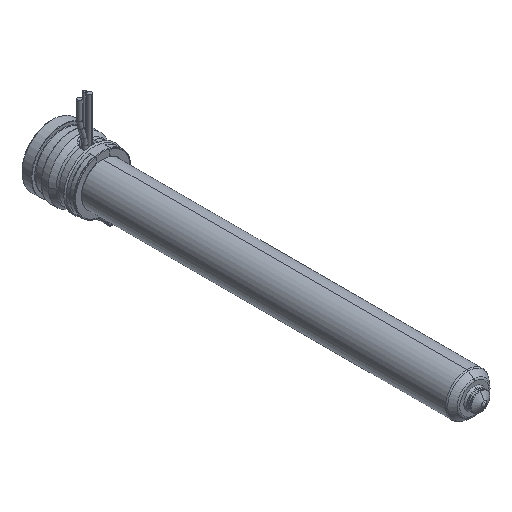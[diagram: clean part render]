
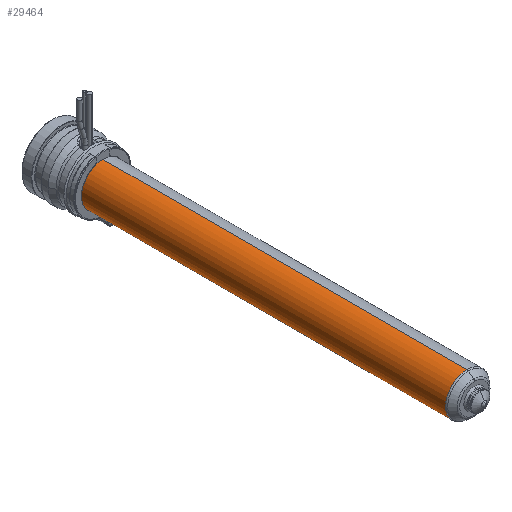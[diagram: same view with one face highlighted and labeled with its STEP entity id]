
A CAD part, isometric view. The second image highlights one B-rep face of the part: STEP entity #29464.
In plain terms, the highlighted cylindrical face has radius 9 mm (diameter 18 mm), a partial arc.
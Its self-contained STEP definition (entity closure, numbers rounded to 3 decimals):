
#28868=CARTESIAN_POINT('',(0.,-175.836,0.));
#28869=DIRECTION('',(0.,-1.,0.));
#28870=DIRECTION('',(0.,0.,1.));
#28871=AXIS2_PLACEMENT_3D('',#28868,#28869,#28870);
#28873=CARTESIAN_POINT('',(0.,-22.,0.));
#28874=DIRECTION('',(0.,1.,0.));
#28875=DIRECTION('',(0.,0.,-1.));
#28876=AXIS2_PLACEMENT_3D('',#28873,#28874,#28875);
#28878=DIRECTION('',(0.,1.,0.));
#28879=VECTOR('',#28878,153.836);
#28880=CARTESIAN_POINT('',(0.,-175.836,9.));
#28881=LINE('',#28880,#28879);
#28887=DIRECTION('',(0.,1.,0.));
#28888=VECTOR('',#28887,153.836);
#28889=CARTESIAN_POINT('',(0.,-175.836,-9.));
#28890=LINE('',#28889,#28888);
#29007=CARTESIAN_POINT('',(0.,-175.836,9.));
#29008=CARTESIAN_POINT('',(0.,-22.,9.));
#29009=VERTEX_POINT('',#29007);
#29010=VERTEX_POINT('',#29008);
#29011=CARTESIAN_POINT('',(0.,-175.836,-9.));
#29012=CARTESIAN_POINT('',(0.,-22.,-9.));
#29013=VERTEX_POINT('',#29011);
#29014=VERTEX_POINT('',#29012);
#29450=CARTESIAN_POINT('',(0.,-9.7,0.));
#29451=DIRECTION('',(0.,-1.,0.));
#29452=DIRECTION('',(0.,0.,1.));
#29453=AXIS2_PLACEMENT_3D('',#29450,#29451,#29452);
#29454=CYLINDRICAL_SURFACE('',#29453,9.);
#29456=ORIENTED_EDGE('',*,*,#29455,.F.);
#29457=ORIENTED_EDGE('',*,*,#29438,.T.);
#29459=ORIENTED_EDGE('',*,*,#29458,.T.);
#29461=ORIENTED_EDGE('',*,*,#29460,.T.);
#29462=EDGE_LOOP('',(#29456,#29457,#29459,#29461));
#29463=FACE_OUTER_BOUND('',#29462,.F.);
#29464=ADVANCED_FACE('',(#29463),#29454,.T.);
#28872=CIRCLE('',#28871,9.);
#28877=CIRCLE('',#28876,9.);
#29438=EDGE_CURVE('',#29009,#29013,#28872,.T.);
#29455=EDGE_CURVE('',#29009,#29010,#28881,.T.);
#29458=EDGE_CURVE('',#29013,#29014,#28890,.T.);
#29460=EDGE_CURVE('',#29014,#29010,#28877,.T.);
